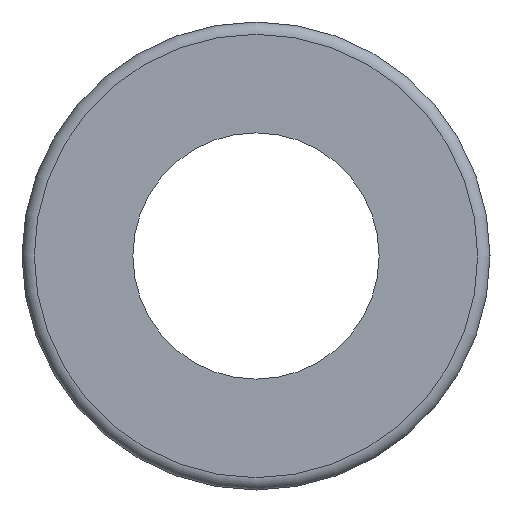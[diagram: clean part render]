
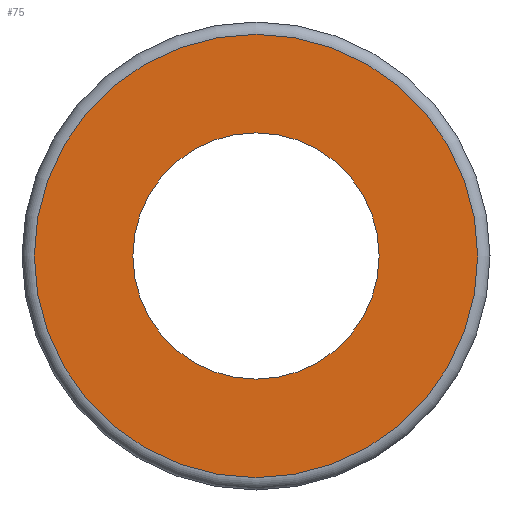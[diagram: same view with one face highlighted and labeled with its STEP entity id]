
A CAD part, left-side view. The second image highlights one B-rep face of the part: STEP entity #75.
In plain terms, the highlighted planar face has unit normal (-1, 0, 0).
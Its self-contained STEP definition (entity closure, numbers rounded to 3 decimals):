
#75=ADVANCED_FACE('',(#90,#91),#92,.T.);
#90=FACE_OUTER_BOUND('',#132,.T.);
#91=FACE_BOUND('',#133,.T.);
#92=PLANE('',#134);
#132=EDGE_LOOP('',(#174));
#133=EDGE_LOOP('',(#175));
#134=AXIS2_PLACEMENT_3D('',#176,#177,#178);
#174=ORIENTED_EDGE('',*,*,#244,.F.);
#175=ORIENTED_EDGE('',*,*,#245,.T.);
#176=CARTESIAN_POINT('',(36.058,7.0,0.0));
#177=DIRECTION('',(-1.0,0.0,0.0));
#178=DIRECTION('',(0.0,0.0,1.0));
#244=EDGE_CURVE('',#258,#258,#259,.T.);
#245=EDGE_CURVE('',#260,#260,#261,.T.);
#258=VERTEX_POINT('',#286);
#259=CIRCLE('',#287,9.0);
#260=VERTEX_POINT('',#288);
#261=CIRCLE('',#289,5.0);
#286=CARTESIAN_POINT('',(36.058,9.0,0.0));
#287=AXIS2_PLACEMENT_3D('',#314,#315,#316);
#288=CARTESIAN_POINT('',(36.058,5.0,0.0));
#289=AXIS2_PLACEMENT_3D('',#317,#318,#319);
#314=CARTESIAN_POINT('',(36.058,0.0,0.0));
#315=DIRECTION('',(1.0,0.0,0.0));
#316=DIRECTION('',(0.0,1.0,0.0));
#317=CARTESIAN_POINT('',(36.058,0.0,0.0));
#318=DIRECTION('',(1.0,0.0,0.0));
#319=DIRECTION('',(0.0,1.0,0.0));
